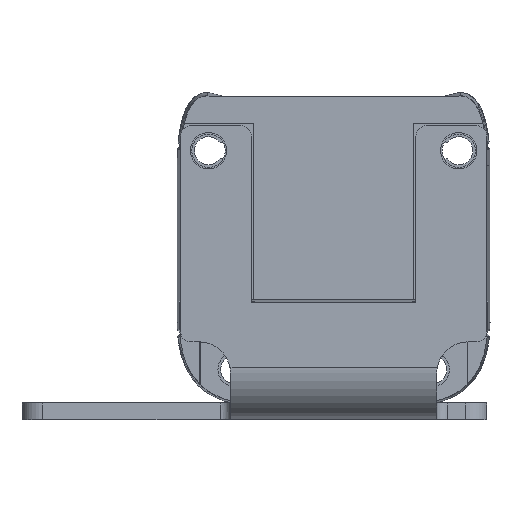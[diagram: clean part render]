
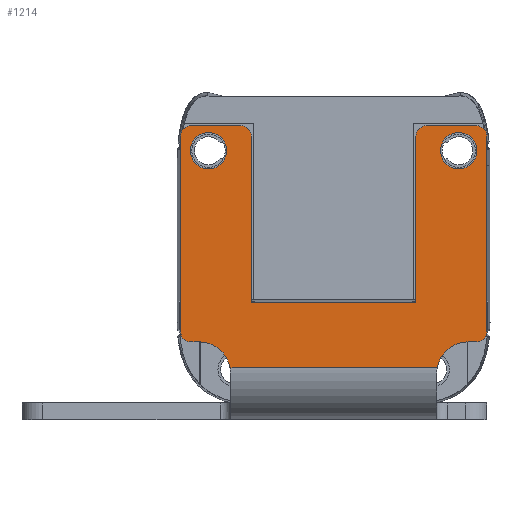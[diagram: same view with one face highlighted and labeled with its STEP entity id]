
A CAD part, front view. The second image highlights one B-rep face of the part: STEP entity #1214.
In plain terms, the highlighted planar face has unit normal (0, -1, 0).
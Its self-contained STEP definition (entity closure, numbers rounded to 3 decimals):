
#1214=ADVANCED_FACE('',(#1904,#1905,#1906),#1492,.T.);
#1492=PLANE('',#9447);
#1797=CIRCLE('',#9437,3.);
#1798=CIRCLE('',#9438,1.);
#1799=CIRCLE('',#9439,1.);
#1800=CIRCLE('',#9440,1.);
#1801=CIRCLE('',#9441,1.);
#1802=CIRCLE('',#9442,1.);
#1803=CIRCLE('',#9443,1.);
#1804=CIRCLE('',#9444,3.);
#1805=CIRCLE('',#9445,1.75);
#1806=CIRCLE('',#9446,1.75);
#1904=FACE_BOUND('',#2370,.T.);
#1905=FACE_BOUND('',#2371,.T.);
#1906=FACE_BOUND('',#2372,.T.);
#2370=EDGE_LOOP('',(#4747,#4748,#4749,#4750,#4751,#4752,#4753,#4754,#4755,
#4756,#4757,#4758,#4759,#4760,#4761,#4762,#4763,#4764));
#2371=EDGE_LOOP('',(#4765));
#2372=EDGE_LOOP('',(#4766));
#4747=ORIENTED_EDGE('',*,*,#6984,.T.);
#4748=ORIENTED_EDGE('',*,*,#6985,.F.);
#4749=ORIENTED_EDGE('',*,*,#6986,.T.);
#4750=ORIENTED_EDGE('',*,*,#6987,.T.);
#4751=ORIENTED_EDGE('',*,*,#6988,.T.);
#4752=ORIENTED_EDGE('',*,*,#6989,.T.);
#4753=ORIENTED_EDGE('',*,*,#6990,.T.);
#4754=ORIENTED_EDGE('',*,*,#6991,.F.);
#4755=ORIENTED_EDGE('',*,*,#6992,.F.);
#4756=ORIENTED_EDGE('',*,*,#6993,.T.);
#4757=ORIENTED_EDGE('',*,*,#6994,.T.);
#4758=ORIENTED_EDGE('',*,*,#6995,.F.);
#4759=ORIENTED_EDGE('',*,*,#6996,.T.);
#4760=ORIENTED_EDGE('',*,*,#6997,.F.);
#4761=ORIENTED_EDGE('',*,*,#6998,.T.);
#4762=ORIENTED_EDGE('',*,*,#6999,.T.);
#4763=ORIENTED_EDGE('',*,*,#7000,.T.);
#4764=ORIENTED_EDGE('',*,*,#7001,.T.);
#4765=ORIENTED_EDGE('',*,*,#7002,.F.);
#4766=ORIENTED_EDGE('',*,*,#7003,.T.);
#5758=VERTEX_POINT('',#15497);
#5759=VERTEX_POINT('',#15498);
#5760=VERTEX_POINT('',#15500);
#5761=VERTEX_POINT('',#15502);
#5762=VERTEX_POINT('',#15504);
#5763=VERTEX_POINT('',#15506);
#5764=VERTEX_POINT('',#15508);
#5765=VERTEX_POINT('',#15510);
#5766=VERTEX_POINT('',#15512);
#5767=VERTEX_POINT('',#15514);
#5768=VERTEX_POINT('',#15516);
#5769=VERTEX_POINT('',#15518);
#5770=VERTEX_POINT('',#15520);
#5771=VERTEX_POINT('',#15522);
#5772=VERTEX_POINT('',#15524);
#5773=VERTEX_POINT('',#15526);
#5774=VERTEX_POINT('',#15528);
#5775=VERTEX_POINT('',#15530);
#5776=VERTEX_POINT('',#15533);
#5777=VERTEX_POINT('',#15535);
#6984=EDGE_CURVE('',#5758,#5759,#1797,.T.);
#6985=EDGE_CURVE('',#5760,#5759,#7863,.T.);
#6986=EDGE_CURVE('',#5760,#5761,#1798,.T.);
#6987=EDGE_CURVE('',#5761,#5762,#7864,.T.);
#6988=EDGE_CURVE('',#5762,#5763,#1799,.T.);
#6989=EDGE_CURVE('',#5763,#5764,#7865,.T.);
#6990=EDGE_CURVE('',#5764,#5765,#1800,.T.);
#6991=EDGE_CURVE('',#5766,#5765,#7866,.T.);
#6992=EDGE_CURVE('',#5767,#5766,#7867,.T.);
#6993=EDGE_CURVE('',#5767,#5768,#7868,.T.);
#6994=EDGE_CURVE('',#5768,#5769,#1801,.T.);
#6995=EDGE_CURVE('',#5770,#5769,#7869,.T.);
#6996=EDGE_CURVE('',#5770,#5771,#1802,.T.);
#6997=EDGE_CURVE('',#5772,#5771,#7870,.T.);
#6998=EDGE_CURVE('',#5772,#5773,#1803,.T.);
#6999=EDGE_CURVE('',#5773,#5774,#7871,.T.);
#7000=EDGE_CURVE('',#5774,#5775,#1804,.T.);
#7001=EDGE_CURVE('',#5775,#5758,#7872,.T.);
#7002=EDGE_CURVE('',#5776,#5776,#1805,.T.);
#7003=EDGE_CURVE('',#5777,#5777,#1806,.T.);
#7863=LINE('',#15499,#8719);
#7864=LINE('',#15503,#8720);
#7865=LINE('',#15507,#8721);
#7866=LINE('',#15511,#8722);
#7867=LINE('',#15513,#8723);
#7868=LINE('',#15515,#8724);
#7869=LINE('',#15519,#8725);
#7870=LINE('',#15523,#8726);
#7871=LINE('',#15527,#8727);
#7872=LINE('',#15531,#8728);
#8719=VECTOR('',#11638,1.);
#8720=VECTOR('',#11641,1.);
#8721=VECTOR('',#11644,1.);
#8722=VECTOR('',#11647,1.);
#8723=VECTOR('',#11648,1.);
#8724=VECTOR('',#11649,1.);
#8725=VECTOR('',#11652,1.);
#8726=VECTOR('',#11655,1.);
#8727=VECTOR('',#11658,1.);
#8728=VECTOR('',#11661,1.);
#9437=AXIS2_PLACEMENT_3D('',#15496,#11636,#11637);
#9438=AXIS2_PLACEMENT_3D('',#15501,#11639,#11640);
#9439=AXIS2_PLACEMENT_3D('',#15505,#11642,#11643);
#9440=AXIS2_PLACEMENT_3D('',#15509,#11645,#11646);
#9441=AXIS2_PLACEMENT_3D('',#15517,#11650,#11651);
#9442=AXIS2_PLACEMENT_3D('',#15521,#11653,#11654);
#9443=AXIS2_PLACEMENT_3D('',#15525,#11656,#11657);
#9444=AXIS2_PLACEMENT_3D('',#15529,#11659,#11660);
#9445=AXIS2_PLACEMENT_3D('',#15532,#11662,#11663);
#9446=AXIS2_PLACEMENT_3D('',#15534,#11664,#11665);
#9447=AXIS2_PLACEMENT_3D('',#15536,#11666,#11667);
#11636=DIRECTION('',(0.,1.,0.));
#11637=DIRECTION('',(0.,0.,1.));
#11638=DIRECTION('',(-1.,0.,0.));
#11639=DIRECTION('',(0.,-1.,0.));
#11640=DIRECTION('',(0.,0.,1.));
#11641=DIRECTION('',(0.,0.,1.));
#11642=DIRECTION('',(0.,-1.,0.));
#11643=DIRECTION('',(0.,0.,-1.));
#11644=DIRECTION('',(-1.,0.,0.));
#11645=DIRECTION('',(0.,-1.,0.));
#11646=DIRECTION('',(0.,0.,-1.));
#11647=DIRECTION('',(0.,0.,1.));
#11648=DIRECTION('',(1.,0.,0.));
#11649=DIRECTION('',(0.,0.,1.));
#11650=DIRECTION('',(0.,-1.,0.));
#11651=DIRECTION('',(0.,0.,1.));
#11652=DIRECTION('',(1.,0.,0.));
#11653=DIRECTION('',(0.,-1.,0.));
#11654=DIRECTION('',(0.,0.,1.));
#11655=DIRECTION('',(0.,0.,1.));
#11656=DIRECTION('',(0.,-1.,0.));
#11657=DIRECTION('',(0.,0.,1.));
#11658=DIRECTION('',(1.,0.,0.));
#11659=DIRECTION('',(0.,1.,0.));
#11660=DIRECTION('',(0.,0.,1.));
#11661=DIRECTION('',(1.,0.,0.));
#11662=DIRECTION('',(0.,-1.,0.));
#11663=DIRECTION('',(0.,0.,1.));
#11664=DIRECTION('',(0.,1.,0.));
#11665=DIRECTION('',(0.,0.,-1.));
#11666=DIRECTION('',(0.,-1.,0.));
#11667=DIRECTION('',(1.,0.,0.));
#15496=CARTESIAN_POINT('',(12.89,105.8,-139.533));
#15497=CARTESIAN_POINT('',(9.939,105.8,-138.994));
#15498=CARTESIAN_POINT('',(12.89,105.8,-136.533));
#15499=CARTESIAN_POINT('',(-7.89,105.8,-136.533));
#15500=CARTESIAN_POINT('',(13.69,105.8,-136.533));
#15501=CARTESIAN_POINT('',(13.69,105.8,-135.533));
#15502=CARTESIAN_POINT('',(14.69,105.8,-135.533));
#15503=CARTESIAN_POINT('',(14.69,105.8,-115.6));
#15504=CARTESIAN_POINT('',(14.69,105.8,-116.8));
#15505=CARTESIAN_POINT('',(13.69,105.8,-116.8));
#15506=CARTESIAN_POINT('',(13.69,105.8,-115.8));
#15507=CARTESIAN_POINT('',(7.89,105.8,-115.8));
#15508=CARTESIAN_POINT('',(8.89,105.8,-115.8));
#15509=CARTESIAN_POINT('',(8.89,105.8,-116.8));
#15510=CARTESIAN_POINT('',(7.89,105.8,-116.8));
#15511=CARTESIAN_POINT('',(7.89,105.8,-115.6));
#15512=CARTESIAN_POINT('',(7.89,105.8,-132.733));
#15513=CARTESIAN_POINT('',(-9.89,105.8,-132.733));
#15514=CARTESIAN_POINT('',(-7.89,105.8,-132.733));
#15515=CARTESIAN_POINT('',(-7.89,105.8,-115.6));
#15516=CARTESIAN_POINT('',(-7.89,105.8,-116.8));
#15517=CARTESIAN_POINT('',(-8.89,105.8,-116.8));
#15518=CARTESIAN_POINT('',(-8.89,105.8,-115.8));
#15519=CARTESIAN_POINT('',(-7.89,105.8,-115.8));
#15520=CARTESIAN_POINT('',(-13.69,105.8,-115.8));
#15521=CARTESIAN_POINT('',(-13.69,105.8,-116.8));
#15522=CARTESIAN_POINT('',(-14.69,105.8,-116.8));
#15523=CARTESIAN_POINT('',(-14.69,105.8,-115.6));
#15524=CARTESIAN_POINT('',(-14.69,105.8,-135.533));
#15525=CARTESIAN_POINT('',(-13.69,105.8,-135.533));
#15526=CARTESIAN_POINT('',(-13.69,105.8,-136.533));
#15527=CARTESIAN_POINT('',(-7.89,105.8,-136.533));
#15528=CARTESIAN_POINT('',(-12.89,105.8,-136.533));
#15529=CARTESIAN_POINT('',(-12.89,105.8,-139.533));
#15530=CARTESIAN_POINT('',(-9.939,105.8,-138.994));
#15531=CARTESIAN_POINT('',(-9.89,105.8,-138.994));
#15532=CARTESIAN_POINT('',(-12.,105.8,-118.2));
#15533=CARTESIAN_POINT('',(-12.,105.8,-116.45));
#15534=CARTESIAN_POINT('',(12.,105.8,-118.2));
#15535=CARTESIAN_POINT('',(12.,105.8,-119.95));
#15536=CARTESIAN_POINT('',(-9.89,105.8,-142.394));
